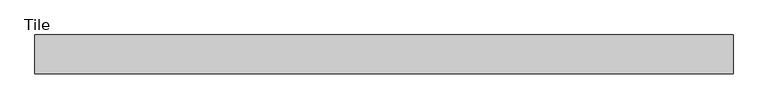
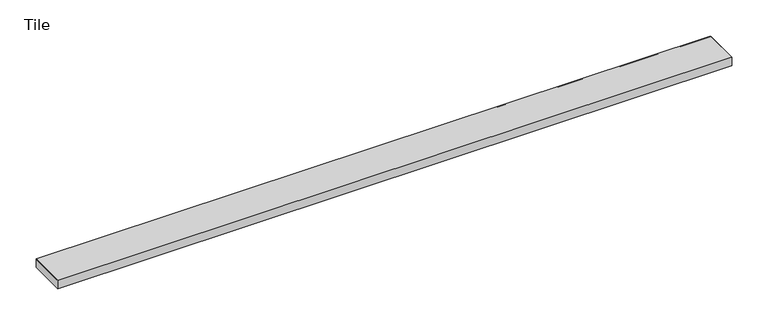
"""IFC4 building model written with IfcOpenShell, lengths in millimetres: sanitary terminal geometry, ZZZ_do not use_PF_ST_UN_grating ShowerDrain C INT_ACO : Tile."""

from ifc_helpers import new_model, si_unit, point, frame, frame_2d, origin, place, context, project, spatial, polyline, circle_curve, trimmed, segment, composite_curve, outline, extrude, source, transform, mapped, element, save


def tile_d7d1d05e(model_context):
    return source(origin(), model_context, "Body", "SweptSolid", [
        extrude(outline(polyline([(540.5, 30.0), (540.5, -30.0), (-540.5, -30.0), (-540.5, 30.0), (540.5, 30.0)])), frame((0.0, 0.0, -14.0), z_axis=(0.0, 0.0, 1.0), x_axis=(1.0, 0.0, 0.0)), (0.0, 0.0, 1.0), 14.0),
        extrude(outline(composite_curve([segment(polyline([(30.0, -14.0), (-30.0, -14.0), (-30.0, -1.977849)]), True, "CONTINUOUS"), segment(trimmed(circle_curve(frame_2d((-28.022151, -1.977849)), 1.977849), [point((-30.0, -1.977849))], [point((-28.022151, 0.0))], False, "CARTESIAN"), True, "CONTINUOUS"), segment(polyline([(-28.022151, 0.0), (28.022151, 0.0)]), True, "CONTINUOUS"), segment(trimmed(circle_curve(frame_2d((28.022151, -1.977849)), 1.977849), [point((28.022151, 0.0))], [point((30.0, -1.977849))], False, "CARTESIAN"), True, "CONTINUOUS"), segment(polyline([(30.0, -1.977849), (30.0, -14.0)]), True, "CONTINUOUS")], self_intersect=False)), frame((-540.5, 0.0, 0.0), z_axis=(1.0, 0.0, 0.0), x_axis=(0.0, 1.0, 0.0)), (0.0, 0.0, 1.0), 1081.0),
    ])


if __name__ == "__main__":
    model = new_model("IFC4")
    model_context = context("Model", 3, world=origin())
    ifc_project = project(units=[si_unit("LENGTHUNIT", "METRE", prefix="MILLI")], contexts=[model_context])
    site = spatial("IfcSite", under=ifc_project)
    building = spatial("IfcBuilding", under=site)
    placement = place(None, origin())
    tile_shape = tile_d7d1d05e(model_context)
    element("IfcSanitaryTerminal", 1, ObjectType="ZZZ_do not use_PF_ST_UN_grating ShowerDrain C INT_ACO : Tile", at=placement, inside=building, context=model_context, shape_type="MappedRepresentation", body=[
        mapped(tile_shape, transform((0.0, 0.0, 0.0), x_axis=(1.0, 0.0, 0.0), y_axis=(0.0, 1.0, 0.0), z_axis=(0.0, 0.0, 1.0))),
    ])
    save(model, "model.ifc")
